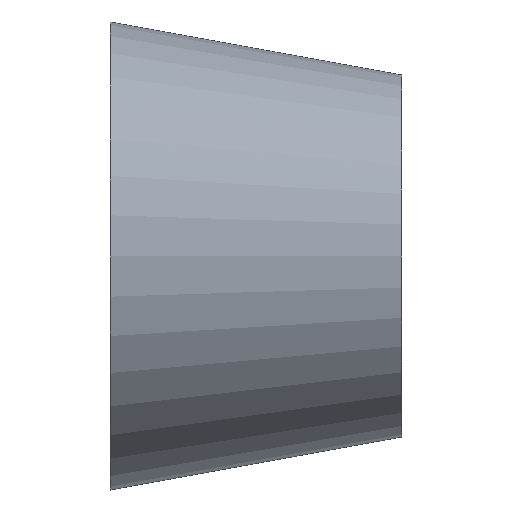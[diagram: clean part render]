
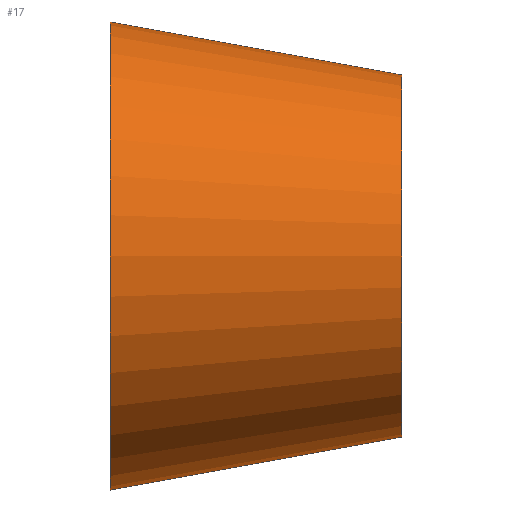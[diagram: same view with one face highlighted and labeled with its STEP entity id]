
A CAD part, front view. The second image highlights one B-rep face of the part: STEP entity #17.
In plain terms, the highlighted free-form (B-spline) face has degree [14, 1] with [15, 2] control points.
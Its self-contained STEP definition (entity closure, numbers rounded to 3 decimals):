
#17 = ADVANCED_FACE('',(#18),#31,.T.);
#18 = FACE_BOUND('',#19,.T.);
#19 = EDGE_LOOP('',(#20,#80,#102,#129));
#20 = ORIENTED_EDGE('',*,*,#21,.T.);
#21 = EDGE_CURVE('',#22,#22,#24,.T.);
#22 = VERTEX_POINT('',#23);
#23 = CARTESIAN_POINT('',(0.,26.5,0.));
#24 = SURFACE_CURVE('',#25,(#30,#68),.PCURVE_S1.);
#25 = CIRCLE('',#26,26.5);
#26 = AXIS2_PLACEMENT_3D('',#27,#28,#29);
#27 = CARTESIAN_POINT('',(0.,0.,0.));
#28 = DIRECTION('',(1.,0.,0.));
#29 = DIRECTION('',(0.,1.,0.));
#30 = PCURVE('',#31,#62);
#31 = B_SPLINE_SURFACE_WITH_KNOTS('',14,1,(
    (#32,#33)
    ,(#34,#35)
    ,(#36,#37)
    ,(#38,#39)
    ,(#40,#41)
    ,(#42,#43)
    ,(#44,#45)
    ,(#46,#47)
    ,(#48,#49)
    ,(#50,#51)
    ,(#52,#53)
    ,(#54,#55)
    ,(#56,#57)
    ,(#58,#59)
    ,(#60,#61
    )),.UNSPECIFIED.,.T.,.F.,.F.,(15,15),(2,2),(0.,6.283),(0.,1.
    ),.PIECEWISE_BEZIER_KNOTS.);
#32 = CARTESIAN_POINT('',(0.,26.5,0.));
#33 = CARTESIAN_POINT('',(33.,14.5,0.));
#34 = CARTESIAN_POINT('',(0.,26.5,11.893));
#35 = CARTESIAN_POINT('',(33.,14.5,9.2)
  );
#36 = CARTESIAN_POINT('',(0.,20.752,23.786));
#37 = CARTESIAN_POINT('',(33.,10.053,
    18.401));
#38 = CARTESIAN_POINT('',(0.,9.255,32.67));
#39 = CARTESIAN_POINT('',(33.,1.16,25.273
    ));
#40 = CARTESIAN_POINT('',(0.,-6.27,35.534));
#41 = CARTESIAN_POINT('',(33.,-10.851,
    27.488));
#42 = CARTESIAN_POINT('',(0.,-22.387,30.448));
#43 = CARTESIAN_POINT('',(33.,-23.318,
    23.554));
#44 = CARTESIAN_POINT('',(0.,-34.69,17.646));
#45 = CARTESIAN_POINT('',(33.,-32.835,
    13.651));
#46 = CARTESIAN_POINT('',(0.,-39.321,0.));
#47 = CARTESIAN_POINT('',(33.,-36.418,
    0.));
#48 = CARTESIAN_POINT('',(0.,-34.69,-17.646));
#49 = CARTESIAN_POINT('',(33.,-32.835,-13.651)
  );
#50 = CARTESIAN_POINT('',(0.,-22.387,-30.448));
#51 = CARTESIAN_POINT('',(33.,-23.318,-23.554
    ));
#52 = CARTESIAN_POINT('',(0.,-6.27,-35.534));
#53 = CARTESIAN_POINT('',(33.,-10.851,
    -27.488));
#54 = CARTESIAN_POINT('',(0.,9.255,-32.67));
#55 = CARTESIAN_POINT('',(33.,1.16,-25.273
    ));
#56 = CARTESIAN_POINT('',(0.,20.752,-23.786));
#57 = CARTESIAN_POINT('',(33.,10.053,-18.401
    ));
#58 = CARTESIAN_POINT('',(0.,26.5,-11.893));
#59 = CARTESIAN_POINT('',(33.,14.5,
    -9.2));
#60 = CARTESIAN_POINT('',(0.,26.5,0.));
#61 = CARTESIAN_POINT('',(33.,14.5,0.));
#62 = DEFINITIONAL_REPRESENTATION('',(#63),#67);
#63 = LINE('',#64,#65);
#64 = CARTESIAN_POINT('',(0.,0.));
#65 = VECTOR('',#66,1.);
#66 = DIRECTION('',(1.,0.));
#67 = ( GEOMETRIC_REPRESENTATION_CONTEXT(2) 
PARAMETRIC_REPRESENTATION_CONTEXT() REPRESENTATION_CONTEXT('2D SPACE',''
  ) );
#68 = PCURVE('',#69,#74);
#69 = PLANE('',#70);
#70 = AXIS2_PLACEMENT_3D('',#71,#72,#73);
#71 = CARTESIAN_POINT('',(0.,0.,0.));
#72 = DIRECTION('',(1.,0.,0.));
#73 = DIRECTION('',(0.,1.,0.));
#74 = DEFINITIONAL_REPRESENTATION('',(#75),#79);
#75 = CIRCLE('',#76,26.5);
#76 = AXIS2_PLACEMENT_2D('',#77,#78);
#77 = CARTESIAN_POINT('',(0.,0.));
#78 = DIRECTION('',(1.,0.));
#79 = ( GEOMETRIC_REPRESENTATION_CONTEXT(2) 
PARAMETRIC_REPRESENTATION_CONTEXT() REPRESENTATION_CONTEXT('2D SPACE',''
  ) );
#80 = ORIENTED_EDGE('',*,*,#81,.T.);
#81 = EDGE_CURVE('',#22,#82,#84,.T.);
#82 = VERTEX_POINT('',#83);
#83 = CARTESIAN_POINT('',(33.,14.5,0.));
#84 = SEAM_CURVE('',#85,(#88,#95),.PCURVE_S1.);
#85 = B_SPLINE_CURVE_WITH_KNOTS('',1,(#86,#87),.UNSPECIFIED.,.F.,.F.,(2,
    2),(0.,1.),.PIECEWISE_BEZIER_KNOTS.);
#86 = CARTESIAN_POINT('',(0.,26.5,0.));
#87 = CARTESIAN_POINT('',(33.,14.5,0.));
#88 = PCURVE('',#31,#89);
#89 = DEFINITIONAL_REPRESENTATION('',(#90),#94);
#90 = LINE('',#91,#92);
#91 = CARTESIAN_POINT('',(6.283,0.));
#92 = VECTOR('',#93,1.);
#93 = DIRECTION('',(0.,1.));
#94 = ( GEOMETRIC_REPRESENTATION_CONTEXT(2) 
PARAMETRIC_REPRESENTATION_CONTEXT() REPRESENTATION_CONTEXT('2D SPACE',''
  ) );
#95 = PCURVE('',#31,#96);
#96 = DEFINITIONAL_REPRESENTATION('',(#97),#101);
#97 = LINE('',#98,#99);
#98 = CARTESIAN_POINT('',(0.,0.));
#99 = VECTOR('',#100,1.);
#100 = DIRECTION('',(0.,1.));
#101 = ( GEOMETRIC_REPRESENTATION_CONTEXT(2) 
PARAMETRIC_REPRESENTATION_CONTEXT() REPRESENTATION_CONTEXT('2D SPACE',''
  ) );
#102 = ORIENTED_EDGE('',*,*,#103,.F.);
#103 = EDGE_CURVE('',#82,#82,#104,.T.);
#104 = SURFACE_CURVE('',#105,(#110,#117),.PCURVE_S1.);
#105 = CIRCLE('',#106,20.5);
#106 = AXIS2_PLACEMENT_3D('',#107,#108,#109);
#107 = CARTESIAN_POINT('',(33.,-6.,0.));
#108 = DIRECTION('',(1.,0.,0.));
#109 = DIRECTION('',(0.,1.,0.));
#110 = PCURVE('',#31,#111);
#111 = DEFINITIONAL_REPRESENTATION('',(#112),#116);
#112 = LINE('',#113,#114);
#113 = CARTESIAN_POINT('',(0.,1.));
#114 = VECTOR('',#115,1.);
#115 = DIRECTION('',(1.,0.));
#116 = ( GEOMETRIC_REPRESENTATION_CONTEXT(2) 
PARAMETRIC_REPRESENTATION_CONTEXT() REPRESENTATION_CONTEXT('2D SPACE',''
  ) );
#117 = PCURVE('',#118,#123);
#118 = PLANE('',#119);
#119 = AXIS2_PLACEMENT_3D('',#120,#121,#122);
#120 = CARTESIAN_POINT('',(33.,-6.,0.));
#121 = DIRECTION('',(1.,0.,0.));
#122 = DIRECTION('',(0.,1.,0.));
#123 = DEFINITIONAL_REPRESENTATION('',(#124),#128);
#124 = CIRCLE('',#125,20.5);
#125 = AXIS2_PLACEMENT_2D('',#126,#127);
#126 = CARTESIAN_POINT('',(0.,0.));
#127 = DIRECTION('',(1.,0.));
#128 = ( GEOMETRIC_REPRESENTATION_CONTEXT(2) 
PARAMETRIC_REPRESENTATION_CONTEXT() REPRESENTATION_CONTEXT('2D SPACE',''
  ) );
#129 = ORIENTED_EDGE('',*,*,#81,.F.);
